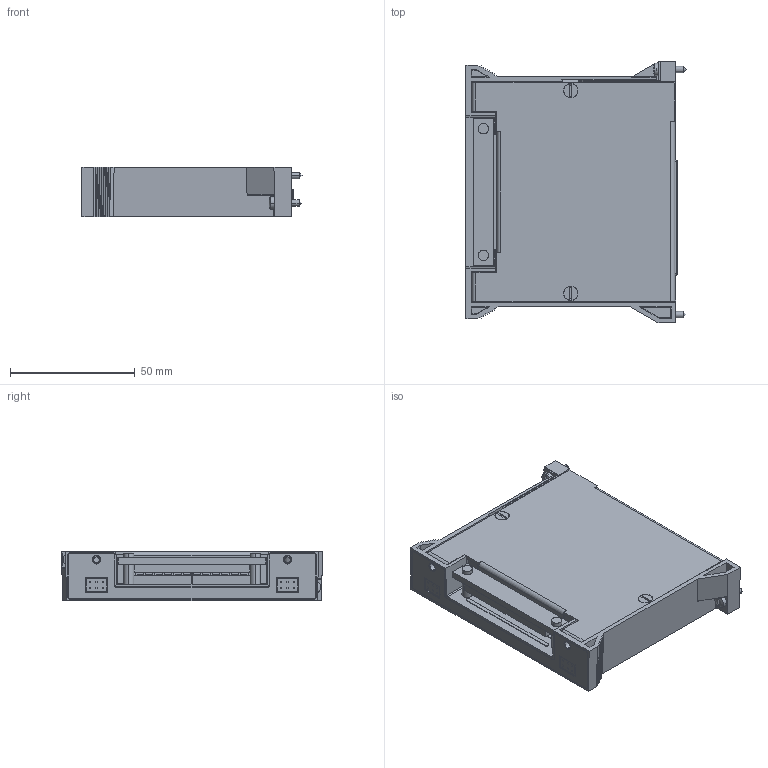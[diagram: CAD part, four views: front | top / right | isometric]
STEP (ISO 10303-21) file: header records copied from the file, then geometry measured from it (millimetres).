
FILE_DESCRIPTION((''),'2;1');
FILE_NAME('CU_TB-260X','2011-08-10T',('jjorden'),(''),'PRO/ENGINEER BY PARAMETRIC TECHNOLOGY CORPORATION, 2010230','PRO/ENGINEER BY PARAMETRIC TECHNOLOGY CORPORATION, 2010230','');
FILE_SCHEMA(('CONFIG_CONTROL_DESIGN'));
Products named in the file (1): CU_TB-260X
Bounding box: 88.3 x 104.78 x 20.02 mm (x, y, z)
Volume: 68513.4 mm3; surface area: 69070.7 mm2
Topology: 2 solids, 2 shells, 2182 faces, 5840 edges, 3714 vertices
Faces by surface type: plane 1512, cylinder 471, bspline 100, cone 56, sphere 31, torus 12
Entity records: 69914 total; most frequent: CARTESIAN_POINT 15429, ORIENTED_EDGE 11472, DIRECTION 10684, EDGE_CURVE 5736, VECTOR 4392, LINE 4392, VERTEX_POINT 3809, AXIS2_PLACEMENT_3D 3146
